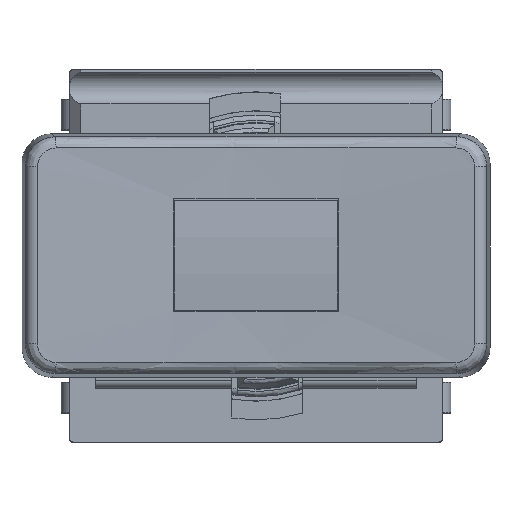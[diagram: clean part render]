
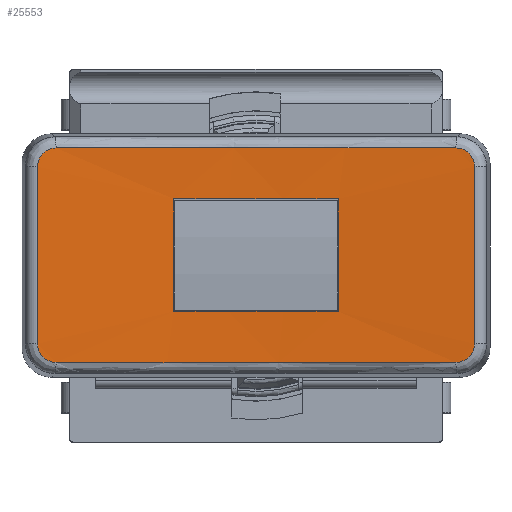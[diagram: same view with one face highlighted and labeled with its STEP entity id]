
A CAD part, top view. The second image highlights one B-rep face of the part: STEP entity #25553.
In plain terms, the highlighted cylindrical face has radius 60 mm (diameter 120 mm), a partial arc.
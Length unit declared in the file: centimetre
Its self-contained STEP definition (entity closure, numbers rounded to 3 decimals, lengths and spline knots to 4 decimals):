
#180=FACE_BOUND($,#3174,.T.);
#181=FACE_BOUND($,#3175,.T.);
#392=B_SPLINE_CURVE_WITH_KNOTS($,3,(#35798,#35799,#35800,#35801,#35802),
 .UNSPECIFIED.,.F.,.F.,(4,1,4),(0.,0.0335,
0.0783),.UNSPECIFIED.);
#393=B_SPLINE_CURVE_WITH_KNOTS($,3,(#35806,#35807,#35808,#35809,#35810,
#35811),.UNSPECIFIED.,.F.,.F.,(4,1,1,4),(0.,0.0224,
0.0447,0.0783),.UNSPECIFIED.);
#394=B_SPLINE_CURVE_WITH_KNOTS($,3,(#35815,#35816,#35817,#35818,#35819),
 .UNSPECIFIED.,.F.,.F.,(4,1,4),(-0.0783,-0.0336,
0.),.UNSPECIFIED.);
#395=B_SPLINE_CURVE_WITH_KNOTS($,3,(#35822,#35823,#35824,#35825,#35826),
 .UNSPECIFIED.,.F.,.F.,(4,1,4),(0.,0.0335,
0.0783),.UNSPECIFIED.);
#788=CYLINDRICAL_SURFACE($,#26914,6.);
#1048=ELLIPSE($,#26917,6.0009,6.);
#1049=ELLIPSE($,#26918,6.0009,6.);
#1174=CIRCLE($,#26915,6.);
#1175=CIRCLE($,#26916,6.);
#3174=EDGE_LOOP($,(#16034,#16035,#16036,#16037));
#3175=EDGE_LOOP($,(#16038,#16039,#16040,#16041,#16042,#16043,#16044,#16045));
#4659=LINE($,#35788,#7175);
#4660=LINE($,#35792,#7176);
#4661=LINE($,#35796,#7177);
#4662=LINE($,#35813,#7178);
#7175=VECTOR($,#29070,0.302);
#7176=VECTOR($,#29073,0.302);
#7177=VECTOR($,#29076,0.4755);
#7178=VECTOR($,#29079,0.4755);
#9707=VERTEX_POINT($,#35786);
#9708=VERTEX_POINT($,#35787);
#9709=VERTEX_POINT($,#35789);
#9710=VERTEX_POINT($,#35791);
#9711=VERTEX_POINT($,#35794);
#9712=VERTEX_POINT($,#35795);
#9713=VERTEX_POINT($,#35797);
#9714=VERTEX_POINT($,#35803);
#9715=VERTEX_POINT($,#35805);
#9716=VERTEX_POINT($,#35812);
#9717=VERTEX_POINT($,#35814);
#9718=VERTEX_POINT($,#35820);
#12206=EDGE_CURVE($,#9707,#9708,#4659,.T.);
#12207=EDGE_CURVE($,#9709,#9708,#1174,.T.);
#12208=EDGE_CURVE($,#9709,#9710,#4660,.T.);
#12209=EDGE_CURVE($,#9707,#9710,#1175,.T.);
#12210=EDGE_CURVE($,#9711,#9712,#4661,.T.);
#12211=EDGE_CURVE($,#9713,#9711,#392,.T.);
#12212=EDGE_CURVE($,#9714,#9713,#1048,.T.);
#12213=EDGE_CURVE($,#9715,#9714,#393,.T.);
#12214=EDGE_CURVE($,#9716,#9715,#4662,.T.);
#12215=EDGE_CURVE($,#9717,#9716,#394,.T.);
#12216=EDGE_CURVE($,#9718,#9717,#1049,.T.);
#12217=EDGE_CURVE($,#9712,#9718,#395,.T.);
#16034=ORIENTED_EDGE($,*,*,#12206,.T.);
#16035=ORIENTED_EDGE($,*,*,#12207,.F.);
#16036=ORIENTED_EDGE($,*,*,#12208,.T.);
#16037=ORIENTED_EDGE($,*,*,#12209,.F.);
#16038=ORIENTED_EDGE($,*,*,#12210,.F.);
#16039=ORIENTED_EDGE($,*,*,#12211,.F.);
#16040=ORIENTED_EDGE($,*,*,#12212,.F.);
#16041=ORIENTED_EDGE($,*,*,#12213,.F.);
#16042=ORIENTED_EDGE($,*,*,#12214,.F.);
#16043=ORIENTED_EDGE($,*,*,#12215,.F.);
#16044=ORIENTED_EDGE($,*,*,#12216,.F.);
#16045=ORIENTED_EDGE($,*,*,#12217,.F.);
#25553=ADVANCED_FACE($,(#180,#181),#788,.F.);
#26914=AXIS2_PLACEMENT_3D($,#35785,#29068,#29069);
#26915=AXIS2_PLACEMENT_3D($,#35790,#29071,#29072);
#26916=AXIS2_PLACEMENT_3D($,#35793,#29074,#29075);
#26917=AXIS2_PLACEMENT_3D($,#35804,#29077,#29078);
#26918=AXIS2_PLACEMENT_3D($,#35821,#29080,#29081);
#29068=DIRECTION('center_axis',(0.,1.,0.));
#29069=DIRECTION('ref_axis',(-0.105,0.,
0.995));
#29070=DIRECTION($,(0.,-1.,0.));
#29071=DIRECTION('center_axis',(0.,-1.,0.));
#29072=DIRECTION('ref_axis',(-0.105,0.,
0.995));
#29073=DIRECTION($,(0.,1.,0.));
#29074=DIRECTION('center_axis',(0.,1.,0.));
#29075=DIRECTION('ref_axis',(-0.105,0.,
0.995));
#29076=DIRECTION($,(0.,-1.,0.));
#29077=DIRECTION('center_axis',(0.,-1.,
-0.018));
#29078=DIRECTION('ref_axis',(0.,0.018,-1.));
#29079=DIRECTION($,(0.,1.,0.));
#29080=DIRECTION('center_axis',(0.,1.,
-0.018));
#29081=DIRECTION('ref_axis',(0.,-0.018,
-1.));
#35785=CARTESIAN_POINT('Origin',(0.,0.,
7.5434));
#35786=CARTESIAN_POINT('',(0.221,0.151,1.5475));
#35787=CARTESIAN_POINT('',(0.221,-0.151,1.5475));
#35788=CARTESIAN_POINT($,(0.221,0.,1.5475));
#35789=CARTESIAN_POINT('',(-0.221,-0.151,1.5475));
#35790=CARTESIAN_POINT('Origin',(0.,-0.151,7.5434));
#35791=CARTESIAN_POINT('',(-0.221,0.151,1.5475));
#35792=CARTESIAN_POINT($,(-0.221,0.,1.5475));
#35793=CARTESIAN_POINT('Origin',(0.,0.151,7.5434));
#35794=CARTESIAN_POINT('',(0.5863,0.2377,1.5722));
#35795=CARTESIAN_POINT('',(0.5863,-0.2377,1.5722));
#35796=CARTESIAN_POINT($,(0.5863,0.,1.5722));
#35797=CARTESIAN_POINT('',(0.5366,0.2878,1.5675));
#35798=CARTESIAN_POINT('Ctrl Pts',(0.5366,0.2878,
1.5675));
#35799=CARTESIAN_POINT('Ctrl Pts',(0.5477,0.2878,1.5685));
#35800=CARTESIAN_POINT('Ctrl Pts',(0.5739,0.2786,
1.5709));
#35801=CARTESIAN_POINT('Ctrl Pts',(0.5863,0.2527,
1.5722));
#35802=CARTESIAN_POINT('Ctrl Pts',(0.5863,0.2377,
1.5722));
#35803=CARTESIAN_POINT('',(-0.5366,0.2878,1.5675));
#35804=CARTESIAN_POINT('Origin',(0.,0.183,
7.5434));
#35805=CARTESIAN_POINT('',(-0.5863,0.2377,1.5722));
#35806=CARTESIAN_POINT('Ctrl Pts',(-0.5863,0.2377,
1.5722));
#35807=CARTESIAN_POINT('Ctrl Pts',(-0.5863,0.2452,
1.5722));
#35808=CARTESIAN_POINT('Ctrl Pts',(-0.5829,0.2602,
1.5718));
#35809=CARTESIAN_POINT('Ctrl Pts',(-0.5662,0.2812,
1.5702));
#35810=CARTESIAN_POINT('Ctrl Pts',(-0.5477,0.2878,
1.5685));
#35811=CARTESIAN_POINT('Ctrl Pts',(-0.5366,0.2878,
1.5675));
#35812=CARTESIAN_POINT('',(-0.5863,-0.2377,1.5722));
#35813=CARTESIAN_POINT($,(-0.5863,0.,1.5722));
#35814=CARTESIAN_POINT('',(-0.5366,-0.2878,1.5675));
#35815=CARTESIAN_POINT('Ctrl Pts',(-0.5366,-0.2878,
1.5675));
#35816=CARTESIAN_POINT('Ctrl Pts',(-0.5514,-0.2878,
1.5688));
#35817=CARTESIAN_POINT('Ctrl Pts',(-0.5771,-0.2754,
1.5712));
#35818=CARTESIAN_POINT('Ctrl Pts',(-0.5863,-0.2489,
1.5722));
#35819=CARTESIAN_POINT('Ctrl Pts',(-0.5863,-0.2377,
1.5722));
#35820=CARTESIAN_POINT('',(0.5366,-0.2878,1.5675));
#35821=CARTESIAN_POINT('Origin',(0.,-0.183,
7.5434));
#35822=CARTESIAN_POINT('Ctrl Pts',(0.5863,-0.2377,
1.5722));
#35823=CARTESIAN_POINT('Ctrl Pts',(0.5863,-0.2489,
1.5722));
#35824=CARTESIAN_POINT('Ctrl Pts',(0.5771,-0.2753,
1.5712));
#35825=CARTESIAN_POINT('Ctrl Pts',(0.5514,-0.2878,
1.5688));
#35826=CARTESIAN_POINT('Ctrl Pts',(0.5366,-0.2878,
1.5675));
